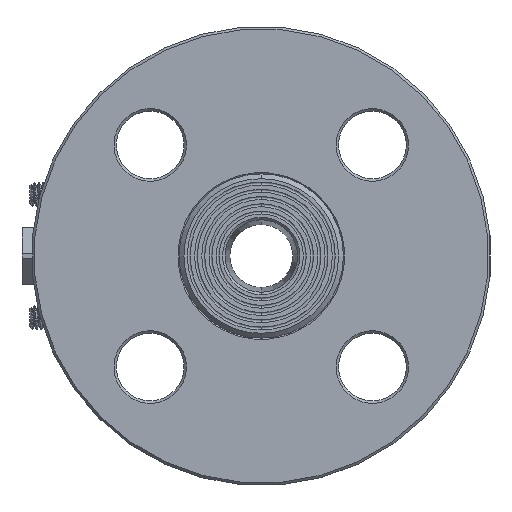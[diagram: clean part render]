
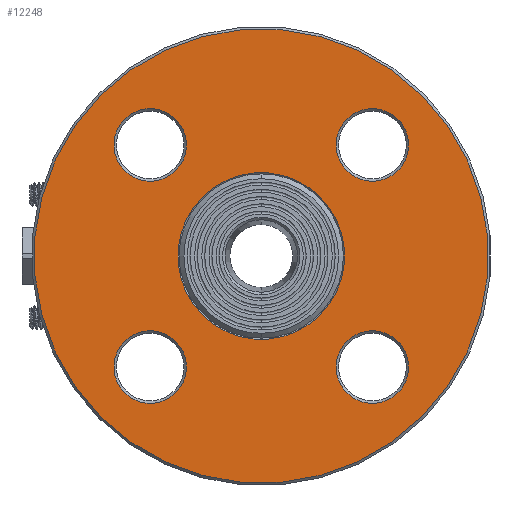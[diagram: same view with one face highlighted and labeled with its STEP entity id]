
A CAD part, left-side view. The second image highlights one B-rep face of the part: STEP entity #12248.
In plain terms, the highlighted planar face has unit normal (-1, 0, 0).
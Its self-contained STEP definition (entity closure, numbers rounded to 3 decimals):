
#11679=CARTESIAN_POINT('',(-55.5,-22.981,-22.981));
#11680=DIRECTION('',(1.,0.,0.));
#11681=DIRECTION('',(0.,-0.707,-0.707));
#11682=AXIS2_PLACEMENT_3D('',#11679,#11680,#11681);
#11697=CARTESIAN_POINT('',(-55.5,0.,
0.));
#11698=DIRECTION('',(-1.,0.,0.));
#11699=DIRECTION('',(0.,0.707,0.707));
#11700=AXIS2_PLACEMENT_3D('',#11697,#11698,#11699);
#11702=CARTESIAN_POINT('',(-55.5,0.,
0.));
#11703=DIRECTION('',(-1.,0.,0.));
#11704=DIRECTION('',(0.,-0.707,-0.707));
#11705=AXIS2_PLACEMENT_3D('',#11702,#11703,#11704);
#11707=CARTESIAN_POINT('',(-55.5,0.,
0.));
#11708=DIRECTION('',(-1.,0.,0.));
#11709=DIRECTION('',(0.,0.707,0.707));
#11710=AXIS2_PLACEMENT_3D('',#11707,#11708,#11709);
#11712=CARTESIAN_POINT('',(-55.5,0.,
0.));
#11713=DIRECTION('',(-1.,0.,0.));
#11714=DIRECTION('',(0.,-0.707,-0.707));
#11715=AXIS2_PLACEMENT_3D('',#11712,#11713,#11714);
#11717=CARTESIAN_POINT('',(-55.5,-22.981,-22.981));
#11718=DIRECTION('',(1.,0.,0.));
#11719=DIRECTION('',(0.,0.707,0.707));
#11720=AXIS2_PLACEMENT_3D('',#11717,#11718,#11719);
#11727=CARTESIAN_POINT('',(-55.5,22.981,-22.981));
#11728=DIRECTION('',(1.,0.,0.));
#11729=DIRECTION('',(0.,-0.707,-0.707));
#11730=AXIS2_PLACEMENT_3D('',#11727,#11728,#11729);
#11745=CARTESIAN_POINT('',(-55.5,22.981,-22.981));
#11746=DIRECTION('',(1.,0.,0.));
#11747=DIRECTION('',(0.,0.707,0.707));
#11748=AXIS2_PLACEMENT_3D('',#11745,#11746,#11747);
#11791=CARTESIAN_POINT('',(-55.5,22.981,22.981));
#11792=DIRECTION('',(1.,0.,0.));
#11793=DIRECTION('',(0.,-0.707,-0.707));
#11794=AXIS2_PLACEMENT_3D('',#11791,#11792,#11793);
#11801=CARTESIAN_POINT('',(-55.5,22.981,22.981));
#11802=DIRECTION('',(1.,0.,0.));
#11803=DIRECTION('',(0.,0.707,0.707));
#11804=AXIS2_PLACEMENT_3D('',#11801,#11802,#11803);
#11855=CARTESIAN_POINT('',(-55.5,-22.981,22.981));
#11856=DIRECTION('',(1.,0.,0.));
#11857=DIRECTION('',(0.,-0.707,-0.707));
#11858=AXIS2_PLACEMENT_3D('',#11855,#11856,#11857);
#11873=CARTESIAN_POINT('',(-55.5,-22.981,22.981));
#11874=DIRECTION('',(1.,0.,0.));
#11875=DIRECTION('',(0.,0.707,0.707));
#11876=AXIS2_PLACEMENT_3D('',#11873,#11874,#11875);
#11999=CARTESIAN_POINT('',(-55.5,-17.678,28.284));
#12000=CARTESIAN_POINT('',(-55.5,-28.284,17.678));
#12001=VERTEX_POINT('',#11999);
#12002=VERTEX_POINT('',#12000);
#12007=CARTESIAN_POINT('',(-55.5,17.678,17.678));
#12008=CARTESIAN_POINT('',(-55.5,28.284,28.284));
#12009=VERTEX_POINT('',#12007);
#12010=VERTEX_POINT('',#12008);
#12015=CARTESIAN_POINT('',(-55.5,28.284,-17.678));
#12016=CARTESIAN_POINT('',(-55.5,17.678,-28.284));
#12017=VERTEX_POINT('',#12015);
#12018=VERTEX_POINT('',#12016);
#12023=CARTESIAN_POINT('',(-55.5,-17.678,-17.678));
#12024=CARTESIAN_POINT('',(-55.5,-28.284,-28.284));
#12025=VERTEX_POINT('',#12023);
#12026=VERTEX_POINT('',#12024);
#12063=CARTESIAN_POINT('',(-55.5,33.234,
33.234));
#12064=CARTESIAN_POINT('',(-55.5,-33.234,
-33.234));
#12065=VERTEX_POINT('',#12063);
#12066=VERTEX_POINT('',#12064);
#12091=CARTESIAN_POINT('',(-55.5,12.198,
12.198));
#12092=CARTESIAN_POINT('',(-55.5,-12.198,
-12.198));
#12093=VERTEX_POINT('',#12091);
#12094=VERTEX_POINT('',#12092);
#12208=CARTESIAN_POINT('',(-55.5,0.,0.));
#12209=DIRECTION('',(-1.,0.,0.));
#12210=DIRECTION('',(0.,-0.707,-0.707));
#12211=AXIS2_PLACEMENT_3D('',#12208,#12209,#12210);
#12212=PLANE('',#12211);
#12214=ORIENTED_EDGE('',*,*,#12213,.F.);
#12216=ORIENTED_EDGE('',*,*,#12215,.F.);
#12217=EDGE_LOOP('',(#12214,#12216));
#12218=FACE_OUTER_BOUND('',#12217,.F.);
#12220=ORIENTED_EDGE('',*,*,#12219,.F.);
#12222=ORIENTED_EDGE('',*,*,#12221,.F.);
#12223=EDGE_LOOP('',(#12220,#12222));
#12224=FACE_BOUND('',#12223,.F.);
#12226=ORIENTED_EDGE('',*,*,#12225,.F.);
#12228=ORIENTED_EDGE('',*,*,#12227,.F.);
#12229=EDGE_LOOP('',(#12226,#12228));
#12230=FACE_BOUND('',#12229,.F.);
#12232=ORIENTED_EDGE('',*,*,#12231,.F.);
#12234=ORIENTED_EDGE('',*,*,#12233,.F.);
#12235=EDGE_LOOP('',(#12232,#12234));
#12236=FACE_BOUND('',#12235,.F.);
#12237=ORIENTED_EDGE('',*,*,#12198,.F.);
#12239=ORIENTED_EDGE('',*,*,#12238,.F.);
#12240=EDGE_LOOP('',(#12237,#12239));
#12241=FACE_BOUND('',#12240,.F.);
#12243=ORIENTED_EDGE('',*,*,#12242,.T.);
#12245=ORIENTED_EDGE('',*,*,#12244,.T.);
#12246=EDGE_LOOP('',(#12243,#12245));
#12247=FACE_BOUND('',#12246,.F.);
#11683=CIRCLE('',#11682,7.5);
#11701=CIRCLE('',#11700,47.);
#11706=CIRCLE('',#11705,47.);
#11711=CIRCLE('',#11710,17.25);
#11716=CIRCLE('',#11715,17.25);
#11721=CIRCLE('',#11720,7.5);
#11731=CIRCLE('',#11730,7.5);
#11749=CIRCLE('',#11748,7.5);
#11795=CIRCLE('',#11794,7.5);
#11805=CIRCLE('',#11804,7.5);
#11859=CIRCLE('',#11858,7.5);
#11877=CIRCLE('',#11876,7.5);
#12198=EDGE_CURVE('',#12026,#12025,#11683,.T.);
#12213=EDGE_CURVE('',#12065,#12066,#11701,.T.);
#12215=EDGE_CURVE('',#12066,#12065,#11706,.T.);
#12219=EDGE_CURVE('',#12018,#12017,#11731,.T.);
#12221=EDGE_CURVE('',#12017,#12018,#11749,.T.);
#12225=EDGE_CURVE('',#12009,#12010,#11795,.T.);
#12227=EDGE_CURVE('',#12010,#12009,#11805,.T.);
#12231=EDGE_CURVE('',#12002,#12001,#11859,.T.);
#12233=EDGE_CURVE('',#12001,#12002,#11877,.T.);
#12238=EDGE_CURVE('',#12025,#12026,#11721,.T.);
#12242=EDGE_CURVE('',#12093,#12094,#11711,.T.);
#12244=EDGE_CURVE('',#12094,#12093,#11716,.T.);
#12248=ADVANCED_FACE('',(#12218,#12224,#12230,#12236,#12241,#12247),#12212,.T.);
